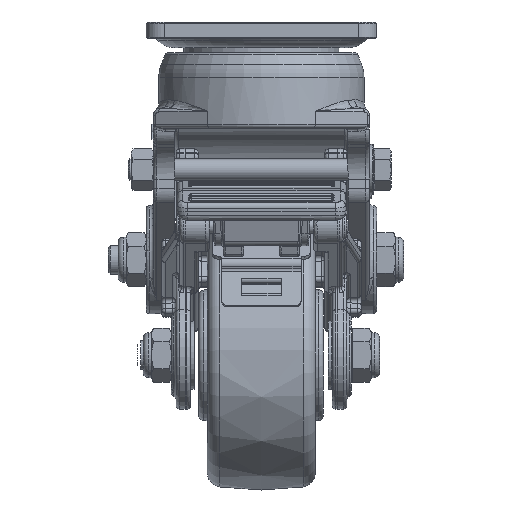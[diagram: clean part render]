
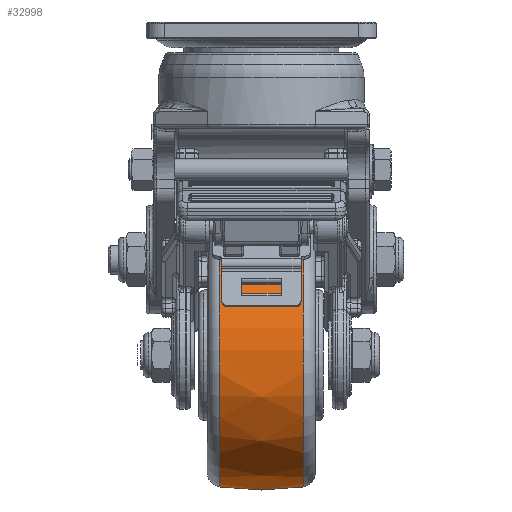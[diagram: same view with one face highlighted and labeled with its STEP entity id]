
A CAD part, left-side view. The second image highlights one B-rep face of the part: STEP entity #32998.
In plain terms, the highlighted free-form (B-spline) face has degree [2, 2] with [3, 9] control points.
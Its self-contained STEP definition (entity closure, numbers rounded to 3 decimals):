
#2736=(
BOUNDED_SURFACE()
B_SPLINE_SURFACE(2,2,((#47428,#47429,#47430,#47431,#47432,#47433,#47434,
#47435,#47436),(#47437,#47438,#47439,#47440,#47441,#47442,#47443,#47444,
#47445),(#47446,#47447,#47448,#47449,#47450,#47451,#47452,#47453,#47454)),
 .UNSPECIFIED.,.F.,.T.,.F.)
B_SPLINE_SURFACE_WITH_KNOTS((3,3),(3,2,2,2,3),(-0.156,0.156),
(-3.142,-1.571,0.,1.571,3.142),
 .UNSPECIFIED.)
GEOMETRIC_REPRESENTATION_ITEM()
RATIONAL_B_SPLINE_SURFACE(((1.,0.707,1.,0.707,1.,
0.707,1.,0.707,1.),(0.988,0.699,
0.988,0.699,0.988,0.699,
0.988,0.699,0.988),(1.,0.707,
1.,0.707,1.,0.707,1.,0.707,1.)))
REPRESENTATION_ITEM('')
SURFACE()
);
#3659=FACE_OUTER_BOUND('',#5793,.T.);
#5793=EDGE_LOOP('',(#22485,#22486,#22487,#22488,#22489,#22490,#22491,#22492));
#12751=CIRCLE('',#35167,36.594);
#12752=CIRCLE('',#35168,36.594);
#12753=CIRCLE('',#35169,36.594);
#12754=CIRCLE('',#35170,75.);
#12755=CIRCLE('',#35171,36.594);
#12756=CIRCLE('',#35172,36.594);
#12757=CIRCLE('',#35173,36.594);
#14094=VERTEX_POINT('',#47421);
#14095=VERTEX_POINT('',#47423);
#14096=VERTEX_POINT('',#47425);
#14097=VERTEX_POINT('',#47455);
#14098=VERTEX_POINT('',#47457);
#14099=VERTEX_POINT('',#47459);
#17263=EDGE_CURVE('',#14094,#14095,#12751,.T.);
#17264=EDGE_CURVE('',#14095,#14096,#12752,.T.);
#17265=EDGE_CURVE('',#14096,#14094,#12753,.T.);
#17266=EDGE_CURVE('',#14094,#14097,#12754,.T.);
#17267=EDGE_CURVE('',#14097,#14098,#12755,.T.);
#17268=EDGE_CURVE('',#14098,#14099,#12756,.T.);
#17269=EDGE_CURVE('',#14099,#14097,#12757,.T.);
#22485=ORIENTED_EDGE('',*,*,#17264,.F.);
#22486=ORIENTED_EDGE('',*,*,#17263,.F.);
#22487=ORIENTED_EDGE('',*,*,#17266,.T.);
#22488=ORIENTED_EDGE('',*,*,#17267,.T.);
#22489=ORIENTED_EDGE('',*,*,#17268,.T.);
#22490=ORIENTED_EDGE('',*,*,#17269,.T.);
#22491=ORIENTED_EDGE('',*,*,#17266,.F.);
#22492=ORIENTED_EDGE('',*,*,#17265,.F.);
#32998=ADVANCED_FACE('',(#3659),#2736,.F.);
#35167=AXIS2_PLACEMENT_3D('',#47424,#38493,#38494);
#35168=AXIS2_PLACEMENT_3D('',#47426,#38495,#38496);
#35169=AXIS2_PLACEMENT_3D('',#47427,#38497,#38498);
#35170=AXIS2_PLACEMENT_3D('',#47456,#38499,#38500);
#35171=AXIS2_PLACEMENT_3D('',#47458,#38501,#38502);
#35172=AXIS2_PLACEMENT_3D('',#47460,#38503,#38504);
#35173=AXIS2_PLACEMENT_3D('',#47461,#38505,#38506);
#38493=DIRECTION('center_axis',(0.,1.,0.));
#38494=DIRECTION('ref_axis',(0.308,0.,-0.951));
#38495=DIRECTION('center_axis',(0.,1.,0.));
#38496=DIRECTION('ref_axis',(0.308,0.,-0.951));
#38497=DIRECTION('center_axis',(0.,1.,0.));
#38498=DIRECTION('ref_axis',(0.308,0.,-0.951));
#38499=DIRECTION('center_axis',(0.951,0.,0.308));
#38500=DIRECTION('ref_axis',(-0.308,0.,0.951));
#38501=DIRECTION('center_axis',(0.,1.,0.));
#38502=DIRECTION('ref_axis',(0.308,0.,-0.951));
#38503=DIRECTION('center_axis',(0.,1.,0.));
#38504=DIRECTION('ref_axis',(0.308,0.,-0.951));
#38505=DIRECTION('center_axis',(0.,1.,0.));
#38506=DIRECTION('ref_axis',(0.308,0.,-0.951));
#47421=CARTESIAN_POINT('',(-46.265,11.62,-57.688));
#47423=CARTESIAN_POINT('',(-0.181,11.62,-81.238));
#47424=CARTESIAN_POINT('Origin',(-34.998,11.62,-92.505));
#47425=CARTESIAN_POINT('',(-69.815,11.62,-103.771));
#47426=CARTESIAN_POINT('Origin',(-34.998,11.62,-92.505));
#47427=CARTESIAN_POINT('Origin',(-34.998,11.62,-92.505));
#47428=CARTESIAN_POINT('Ctrl Pts',(-46.265,-11.62,
-57.688));
#47429=CARTESIAN_POINT('Ctrl Pts',(-11.447,-11.62,
-46.421));
#47430=CARTESIAN_POINT('Ctrl Pts',(-0.181,-11.62,
-81.238));
#47431=CARTESIAN_POINT('Ctrl Pts',(11.085,-11.62,-116.055));
#47432=CARTESIAN_POINT('Ctrl Pts',(-23.732,-11.62,
-127.322));
#47433=CARTESIAN_POINT('Ctrl Pts',(-58.549,-11.62,-138.588));
#47434=CARTESIAN_POINT('Ctrl Pts',(-69.815,-11.62,
-103.771));
#47435=CARTESIAN_POINT('Ctrl Pts',(-81.082,-11.62,-68.954));
#47436=CARTESIAN_POINT('Ctrl Pts',(-46.265,-11.62,
-57.688));
#47437=CARTESIAN_POINT('Ctrl Pts',(-46.826,0.,
-55.954));
#47438=CARTESIAN_POINT('Ctrl Pts',(-10.275,0.,
-44.127));
#47439=CARTESIAN_POINT('Ctrl Pts',(1.552,0.,
-80.677));
#47440=CARTESIAN_POINT('Ctrl Pts',(13.38,0.,
-117.228));
#47441=CARTESIAN_POINT('Ctrl Pts',(-23.171,0.,
-129.055));
#47442=CARTESIAN_POINT('Ctrl Pts',(-59.722,0.,
-140.883));
#47443=CARTESIAN_POINT('Ctrl Pts',(-71.549,0.,
-104.332));
#47444=CARTESIAN_POINT('Ctrl Pts',(-83.376,0.,
-67.781));
#47445=CARTESIAN_POINT('Ctrl Pts',(-46.826,0.,
-55.954));
#47446=CARTESIAN_POINT('Ctrl Pts',(-46.265,11.62,-57.688));
#47447=CARTESIAN_POINT('Ctrl Pts',(-11.447,11.62,-46.421));
#47448=CARTESIAN_POINT('Ctrl Pts',(-0.181,11.62,-81.238));
#47449=CARTESIAN_POINT('Ctrl Pts',(11.085,11.62,-116.055));
#47450=CARTESIAN_POINT('Ctrl Pts',(-23.732,11.62,-127.322));
#47451=CARTESIAN_POINT('Ctrl Pts',(-58.549,11.62,-138.588));
#47452=CARTESIAN_POINT('Ctrl Pts',(-69.815,11.62,-103.771));
#47453=CARTESIAN_POINT('Ctrl Pts',(-81.082,11.62,-68.954));
#47454=CARTESIAN_POINT('Ctrl Pts',(-46.265,11.62,-57.688));
#47455=CARTESIAN_POINT('',(-46.265,-11.62,-57.688));
#47456=CARTESIAN_POINT('Origin',(-23.453,0.,
-128.183));
#47457=CARTESIAN_POINT('',(-0.181,-11.62,-81.238));
#47458=CARTESIAN_POINT('Origin',(-34.998,-11.62,-92.505));
#47459=CARTESIAN_POINT('',(-69.815,-11.62,-103.771));
#47460=CARTESIAN_POINT('Origin',(-34.998,-11.62,-92.505));
#47461=CARTESIAN_POINT('Origin',(-34.998,-11.62,-92.505));
